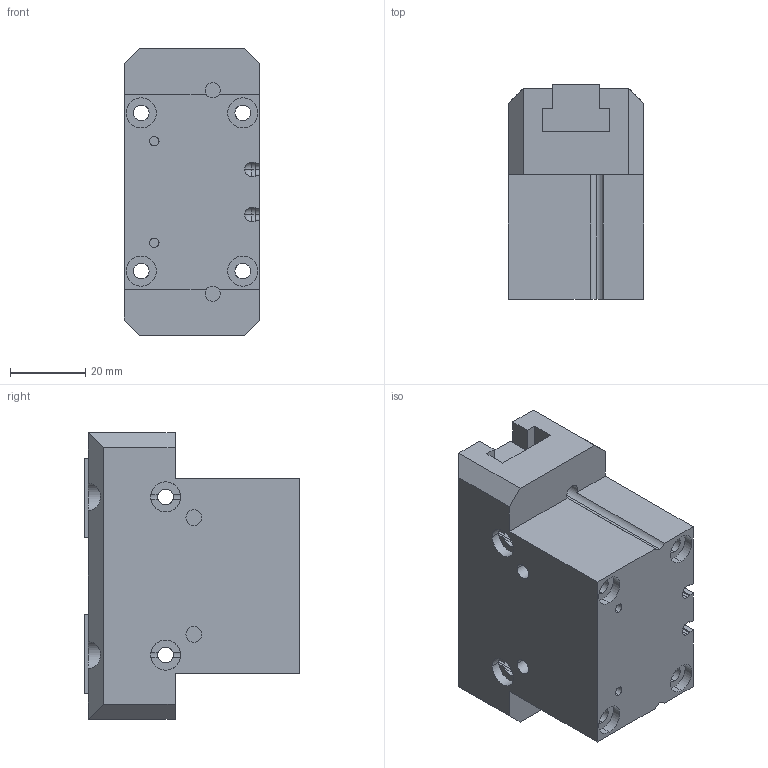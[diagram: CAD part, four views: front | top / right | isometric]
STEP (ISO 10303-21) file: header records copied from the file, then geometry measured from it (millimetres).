
FILE_DESCRIPTION (( 'STEP AP203' ), '1' );
FILE_NAME ('dh2712nc.STEP', '2011-08-03T08:26:40', ( 'Stefano' ), ( 'Gimatic' ), 'SwSTEP 2.0', 'SolidWorks 2010', '' );
FILE_SCHEMA (( 'CONFIG_CONTROL_DESIGN' ));
Length unit declared in the file: millimetre
Products named in the file (3): dh27_griffa; dh2712nc; dh27_corpo_prolungato
Assembly tree (3 placements, depth 2):
  dh2712nc
    dh27_griffa  x2
    dh27_corpo_prolungato
Bounding box: 36 x 57 x 76 mm (x, y, z)
Volume: 111461.9 mm3; surface area: 28728.1 mm2
Topology: 3 solids, 3 shells, 196 faces, 512 edges, 328 vertices
Faces by surface type: plane 98, cylinder 94, sphere 4
Entity records: 5899 total; most frequent: CARTESIAN_POINT 1232, DIRECTION 922, ORIENTED_EDGE 908, EDGE_CURVE 454, AXIS2_PLACEMENT_3D 334, VERTEX_POINT 292, LINE 254, VECTOR 254
